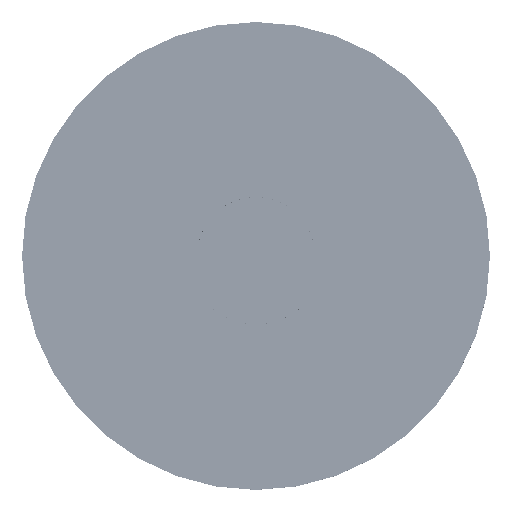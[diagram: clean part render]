
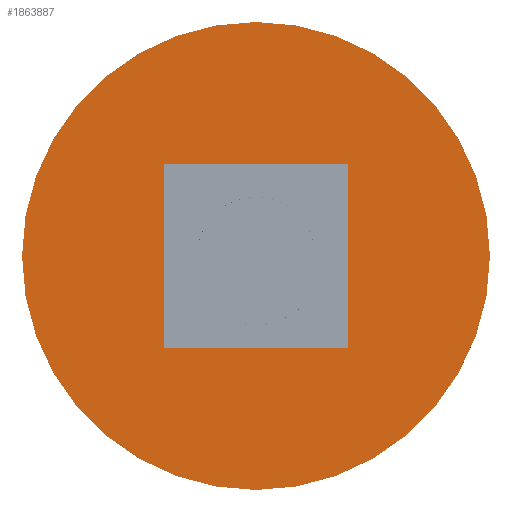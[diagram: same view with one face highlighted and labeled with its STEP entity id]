
A CAD part, top view. The second image highlights one B-rep face of the part: STEP entity #1863887.
In plain terms, the highlighted planar face has unit normal (0, 0, 1).
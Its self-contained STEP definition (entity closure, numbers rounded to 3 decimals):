
#1863769 = VERTEX_POINT('',#1863770);
#1863770 = CARTESIAN_POINT('',(20.,0.,43.646));
#1863779 = CYLINDRICAL_SURFACE('',#1863780,20.);
#1863780 = AXIS2_PLACEMENT_3D('',#1863781,#1863782,#1863783);
#1863781 = CARTESIAN_POINT('',(0.,0.,42.62));
#1863782 = DIRECTION('',(-0.,-0.,-1.));
#1863783 = DIRECTION('',(1.,0.,0.));
#1863798 = EDGE_CURVE('',#1863769,#1863769,#1863799,.T.);
#1863799 = SURFACE_CURVE('',#1863800,(#1863805,#1863812),.PCURVE_S1.);
#1863800 = CIRCLE('',#1863801,20.);
#1863801 = AXIS2_PLACEMENT_3D('',#1863802,#1863803,#1863804);
#1863802 = CARTESIAN_POINT('',(0.,0.,43.646));
#1863803 = DIRECTION('',(0.,0.,1.));
#1863804 = DIRECTION('',(1.,0.,-0.));
#1863805 = PCURVE('',#1863779,#1863806);
#1863806 = DEFINITIONAL_REPRESENTATION('',(#1863807),#1863811);
#1863807 = LINE('',#1863808,#1863809);
#1863808 = CARTESIAN_POINT('',(6.283,-1.026));
#1863809 = VECTOR('',#1863810,1.);
#1863810 = DIRECTION('',(-1.,0.));
#1863811 = ( GEOMETRIC_REPRESENTATION_CONTEXT(2) 
PARAMETRIC_REPRESENTATION_CONTEXT() REPRESENTATION_CONTEXT('2D SPACE',''
  ) );
#1863812 = PCURVE('',#1863813,#1863818);
#1863813 = PLANE('',#1863814);
#1863814 = AXIS2_PLACEMENT_3D('',#1863815,#1863816,#1863817);
#1863815 = CARTESIAN_POINT('',(0.,0.,
    43.646));
#1863816 = DIRECTION('',(0.,0.,1.));
#1863817 = DIRECTION('',(1.,0.,-0.));
#1863818 = DEFINITIONAL_REPRESENTATION('',(#1863819),#1863823);
#1863819 = CIRCLE('',#1863820,20.);
#1863820 = AXIS2_PLACEMENT_2D('',#1863821,#1863822);
#1863821 = CARTESIAN_POINT('',(0.,0.));
#1863822 = DIRECTION('',(1.,0.));
#1863823 = ( GEOMETRIC_REPRESENTATION_CONTEXT(2) 
PARAMETRIC_REPRESENTATION_CONTEXT() REPRESENTATION_CONTEXT('2D SPACE',''
  ) );
#1863887 = ADVANCED_FACE('',(#1863888,#1863891),#1863813,.T.);
#1863888 = FACE_BOUND('',#1863889,.T.);
#1863889 = EDGE_LOOP('',(#1863890));
#1863890 = ORIENTED_EDGE('',*,*,#1863798,.T.);
#1863891 = FACE_BOUND('',#1863892,.T.);
#1863892 = EDGE_LOOP('',(#1863893,#1863923,#1863951,#1863979));
#1863893 = ORIENTED_EDGE('',*,*,#1863894,.T.);
#1863894 = EDGE_CURVE('',#1863895,#1863897,#1863899,.T.);
#1863895 = VERTEX_POINT('',#1863896);
#1863896 = CARTESIAN_POINT('',(7.9,7.9,43.646));
#1863897 = VERTEX_POINT('',#1863898);
#1863898 = CARTESIAN_POINT('',(7.9,-7.9,43.646));
#1863899 = SURFACE_CURVE('',#1863900,(#1863904,#1863911),.PCURVE_S1.);
#1863900 = LINE('',#1863901,#1863902);
#1863901 = CARTESIAN_POINT('',(7.9,-3.95,43.646));
#1863902 = VECTOR('',#1863903,1.);
#1863903 = DIRECTION('',(0.,-1.,0.));
#1863904 = PCURVE('',#1863813,#1863905);
#1863905 = DEFINITIONAL_REPRESENTATION('',(#1863906),#1863910);
#1863906 = LINE('',#1863907,#1863908);
#1863907 = CARTESIAN_POINT('',(7.9,-3.95));
#1863908 = VECTOR('',#1863909,1.);
#1863909 = DIRECTION('',(0.,-1.));
#1863910 = ( GEOMETRIC_REPRESENTATION_CONTEXT(2) 
PARAMETRIC_REPRESENTATION_CONTEXT() REPRESENTATION_CONTEXT('2D SPACE',''
  ) );
#1863911 = PCURVE('',#1863912,#1863917);
#1863912 = PLANE('',#1863913);
#1863913 = AXIS2_PLACEMENT_3D('',#1863914,#1863915,#1863916);
#1863914 = CARTESIAN_POINT('',(7.9,-7.9,39.808));
#1863915 = DIRECTION('',(-1.,0.,0.));
#1863916 = DIRECTION('',(0.,1.,0.));
#1863917 = DEFINITIONAL_REPRESENTATION('',(#1863918),#1863922);
#1863918 = LINE('',#1863919,#1863920);
#1863919 = CARTESIAN_POINT('',(3.95,-3.838));
#1863920 = VECTOR('',#1863921,1.);
#1863921 = DIRECTION('',(-1.,0.));
#1863922 = ( GEOMETRIC_REPRESENTATION_CONTEXT(2) 
PARAMETRIC_REPRESENTATION_CONTEXT() REPRESENTATION_CONTEXT('2D SPACE',''
  ) );
#1863923 = ORIENTED_EDGE('',*,*,#1863924,.T.);
#1863924 = EDGE_CURVE('',#1863897,#1863925,#1863927,.T.);
#1863925 = VERTEX_POINT('',#1863926);
#1863926 = CARTESIAN_POINT('',(-7.9,-7.9,43.646));
#1863927 = SURFACE_CURVE('',#1863928,(#1863932,#1863939),.PCURVE_S1.);
#1863928 = LINE('',#1863929,#1863930);
#1863929 = CARTESIAN_POINT('',(-3.95,-7.9,43.646));
#1863930 = VECTOR('',#1863931,1.);
#1863931 = DIRECTION('',(-1.,0.,0.));
#1863932 = PCURVE('',#1863813,#1863933);
#1863933 = DEFINITIONAL_REPRESENTATION('',(#1863934),#1863938);
#1863934 = LINE('',#1863935,#1863936);
#1863935 = CARTESIAN_POINT('',(-3.95,-7.9));
#1863936 = VECTOR('',#1863937,1.);
#1863937 = DIRECTION('',(-1.,0.));
#1863938 = ( GEOMETRIC_REPRESENTATION_CONTEXT(2) 
PARAMETRIC_REPRESENTATION_CONTEXT() REPRESENTATION_CONTEXT('2D SPACE',''
  ) );
#1863939 = PCURVE('',#1863940,#1863945);
#1863940 = PLANE('',#1863941);
#1863941 = AXIS2_PLACEMENT_3D('',#1863942,#1863943,#1863944);
#1863942 = CARTESIAN_POINT('',(-7.9,-7.9,39.808));
#1863943 = DIRECTION('',(0.,1.,0.));
#1863944 = DIRECTION('',(1.,0.,0.));
#1863945 = DEFINITIONAL_REPRESENTATION('',(#1863946),#1863950);
#1863946 = LINE('',#1863947,#1863948);
#1863947 = CARTESIAN_POINT('',(3.95,-3.838));
#1863948 = VECTOR('',#1863949,1.);
#1863949 = DIRECTION('',(-1.,0.));
#1863950 = ( GEOMETRIC_REPRESENTATION_CONTEXT(2) 
PARAMETRIC_REPRESENTATION_CONTEXT() REPRESENTATION_CONTEXT('2D SPACE',''
  ) );
#1863951 = ORIENTED_EDGE('',*,*,#1863952,.T.);
#1863952 = EDGE_CURVE('',#1863925,#1863953,#1863955,.T.);
#1863953 = VERTEX_POINT('',#1863954);
#1863954 = CARTESIAN_POINT('',(-7.9,7.9,43.646));
#1863955 = SURFACE_CURVE('',#1863956,(#1863960,#1863967),.PCURVE_S1.);
#1863956 = LINE('',#1863957,#1863958);
#1863957 = CARTESIAN_POINT('',(-7.9,3.95,43.646));
#1863958 = VECTOR('',#1863959,1.);
#1863959 = DIRECTION('',(-0.,1.,0.));
#1863960 = PCURVE('',#1863813,#1863961);
#1863961 = DEFINITIONAL_REPRESENTATION('',(#1863962),#1863966);
#1863962 = LINE('',#1863963,#1863964);
#1863963 = CARTESIAN_POINT('',(-7.9,3.95));
#1863964 = VECTOR('',#1863965,1.);
#1863965 = DIRECTION('',(0.,1.));
#1863966 = ( GEOMETRIC_REPRESENTATION_CONTEXT(2) 
PARAMETRIC_REPRESENTATION_CONTEXT() REPRESENTATION_CONTEXT('2D SPACE',''
  ) );
#1863967 = PCURVE('',#1863968,#1863973);
#1863968 = PLANE('',#1863969);
#1863969 = AXIS2_PLACEMENT_3D('',#1863970,#1863971,#1863972);
#1863970 = CARTESIAN_POINT('',(-7.9,7.9,39.808));
#1863971 = DIRECTION('',(1.,0.,-0.));
#1863972 = DIRECTION('',(0.,-1.,0.));
#1863973 = DEFINITIONAL_REPRESENTATION('',(#1863974),#1863978);
#1863974 = LINE('',#1863975,#1863976);
#1863975 = CARTESIAN_POINT('',(3.95,-3.838));
#1863976 = VECTOR('',#1863977,1.);
#1863977 = DIRECTION('',(-1.,-0.));
#1863978 = ( GEOMETRIC_REPRESENTATION_CONTEXT(2) 
PARAMETRIC_REPRESENTATION_CONTEXT() REPRESENTATION_CONTEXT('2D SPACE',''
  ) );
#1863979 = ORIENTED_EDGE('',*,*,#1863980,.T.);
#1863980 = EDGE_CURVE('',#1863953,#1863895,#1863981,.T.);
#1863981 = SURFACE_CURVE('',#1863982,(#1863986,#1863993),.PCURVE_S1.);
#1863982 = LINE('',#1863983,#1863984);
#1863983 = CARTESIAN_POINT('',(3.95,7.9,43.646));
#1863984 = VECTOR('',#1863985,1.);
#1863985 = DIRECTION('',(1.,0.,-0.));
#1863986 = PCURVE('',#1863813,#1863987);
#1863987 = DEFINITIONAL_REPRESENTATION('',(#1863988),#1863992);
#1863988 = LINE('',#1863989,#1863990);
#1863989 = CARTESIAN_POINT('',(3.95,7.9));
#1863990 = VECTOR('',#1863991,1.);
#1863991 = DIRECTION('',(1.,0.));
#1863992 = ( GEOMETRIC_REPRESENTATION_CONTEXT(2) 
PARAMETRIC_REPRESENTATION_CONTEXT() REPRESENTATION_CONTEXT('2D SPACE',''
  ) );
#1863993 = PCURVE('',#1863994,#1863999);
#1863994 = PLANE('',#1863995);
#1863995 = AXIS2_PLACEMENT_3D('',#1863996,#1863997,#1863998);
#1863996 = CARTESIAN_POINT('',(7.9,7.9,39.808));
#1863997 = DIRECTION('',(0.,-1.,0.));
#1863998 = DIRECTION('',(-1.,0.,0.));
#1863999 = DEFINITIONAL_REPRESENTATION('',(#1864000),#1864004);
#1864000 = LINE('',#1864001,#1864002);
#1864001 = CARTESIAN_POINT('',(3.95,-3.838));
#1864002 = VECTOR('',#1864003,1.);
#1864003 = DIRECTION('',(-1.,0.));
#1864004 = ( GEOMETRIC_REPRESENTATION_CONTEXT(2) 
PARAMETRIC_REPRESENTATION_CONTEXT() REPRESENTATION_CONTEXT('2D SPACE',''
  ) );
